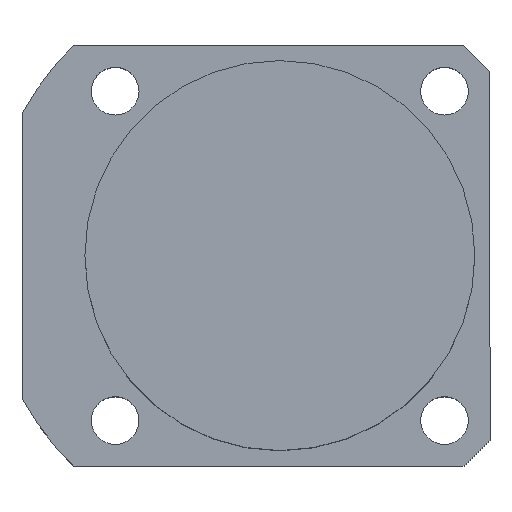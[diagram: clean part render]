
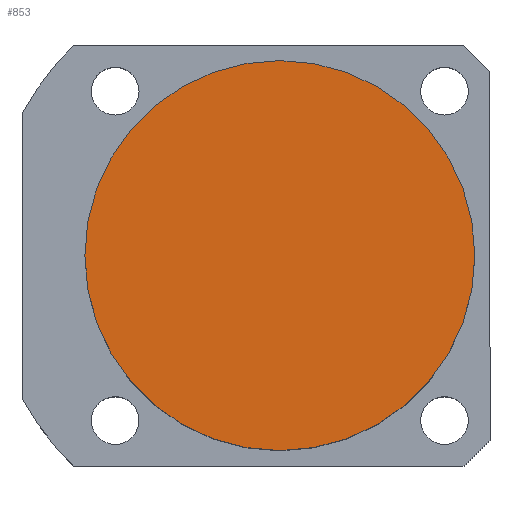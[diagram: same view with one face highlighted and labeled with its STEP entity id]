
A CAD part, top view. The second image highlights one B-rep face of the part: STEP entity #853.
In plain terms, the highlighted planar face has unit normal (0, 0, 1).
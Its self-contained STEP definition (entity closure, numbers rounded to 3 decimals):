
#55 = VERTEX_POINT ( 'NONE', #1537 ) ;
#112 = EDGE_LOOP ( 'NONE', ( #694, #1171 ) ) ;
#198 = AXIS2_PLACEMENT_3D ( 'NONE', #1505, #606, #1076 ) ;
#292 = PLANE ( 'NONE',  #198 ) ;
#298 = EDGE_CURVE ( 'NONE', #1657, #55, #1509, .T. ) ;
#430 = DIRECTION ( 'NONE',  ( 1., 0., 0. ) ) ;
#542 = AXIS2_PLACEMENT_3D ( 'NONE', #778, #1100, #788 ) ;
#606 = DIRECTION ( 'NONE',  ( 0., 0., 1. ) ) ;
#694 = ORIENTED_EDGE ( 'NONE', *, *, #298, .T. ) ;
#778 = CARTESIAN_POINT ( 'NONE',  ( 0., 0., 54.5 ) ) ;
#788 = DIRECTION ( 'NONE',  ( 1., 0., 0. ) ) ;
#853 = ADVANCED_FACE ( 'NONE', ( #1461 ), #292, .T. ) ;
#906 = EDGE_CURVE ( 'NONE', #55, #1657, #1829, .T. ) ;
#970 = CARTESIAN_POINT ( 'NONE',  ( -45., 0., 54.5 ) ) ;
#1076 = DIRECTION ( 'NONE',  ( 1., 0., 0. ) ) ;
#1100 = DIRECTION ( 'NONE',  ( 0., 0., 1. ) ) ;
#1131 = AXIS2_PLACEMENT_3D ( 'NONE', #1165, #1336, #430 ) ;
#1165 = CARTESIAN_POINT ( 'NONE',  ( 0., 0., 54.5 ) ) ;
#1171 = ORIENTED_EDGE ( 'NONE', *, *, #906, .T. ) ;
#1336 = DIRECTION ( 'NONE',  ( 0., 0., 1. ) ) ;
#1461 = FACE_OUTER_BOUND ( 'NONE', #112, .T. ) ;
#1505 = CARTESIAN_POINT ( 'NONE',  ( 0., 0., 54.5 ) ) ;
#1509 = CIRCLE ( 'NONE', #1131, 45. ) ;
#1537 = CARTESIAN_POINT ( 'NONE',  ( 45., 0., 54.5 ) ) ;
#1657 = VERTEX_POINT ( 'NONE', #970 ) ;
#1829 = CIRCLE ( 'NONE', #542, 45. ) ;
